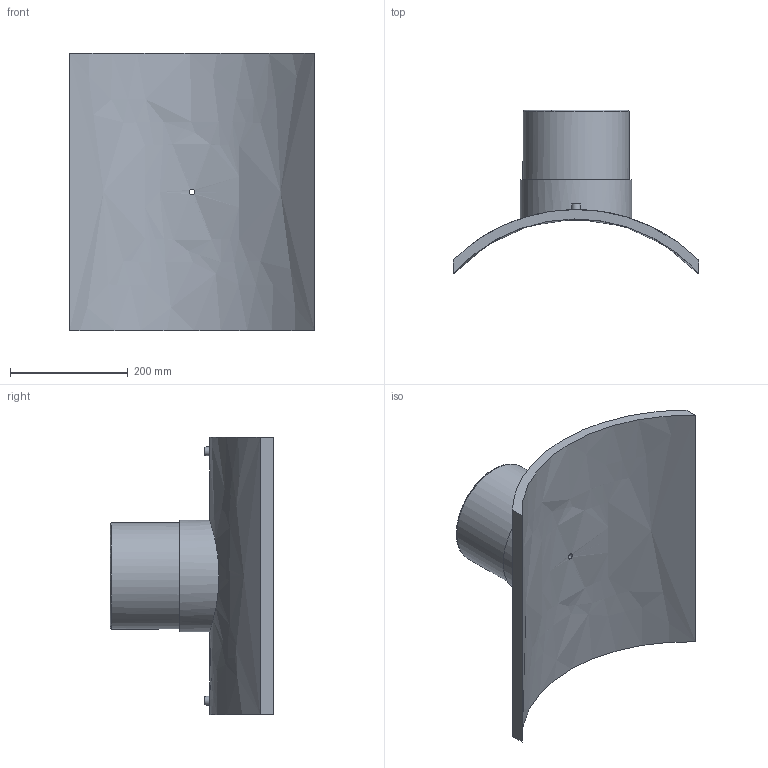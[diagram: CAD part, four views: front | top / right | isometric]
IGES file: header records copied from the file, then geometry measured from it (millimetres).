
Global section: file name: 495803560180T; native system: Autodesk Inventor 2019; preprocessor: unknown; author: KIM; date: 20240404.115231; units: millimetre
Bounding box: 416 x 277.55 x 470 mm (x, y, z)
Volume: 5258560.5 mm3; surface area: 661579.9 mm2
Topology: 1 solids, 1 shells, 29 faces, 60 edges, 43 vertices
Faces by surface type: bspline 29
